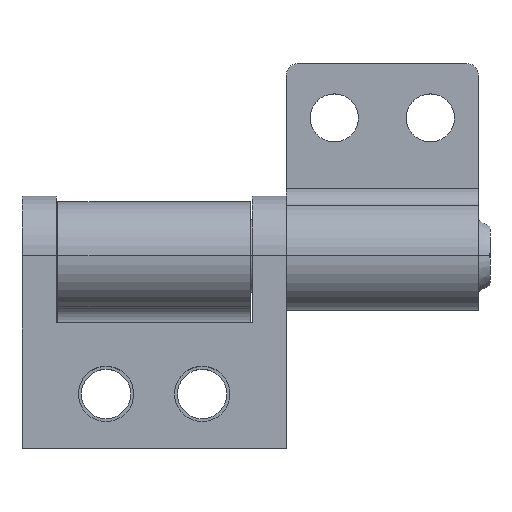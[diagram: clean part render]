
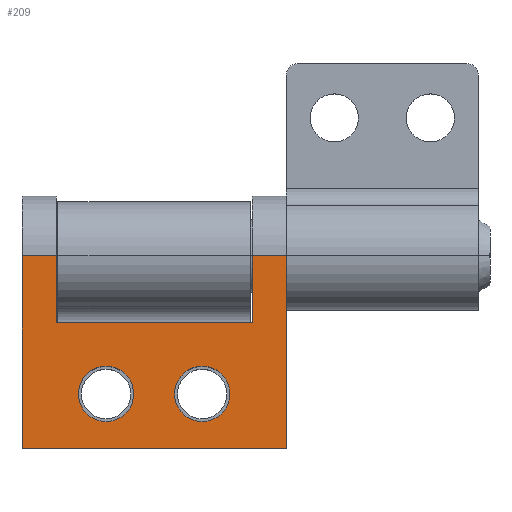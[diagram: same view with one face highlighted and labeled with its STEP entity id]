
A CAD part, top view. The second image highlights one B-rep face of the part: STEP entity #209.
In plain terms, the highlighted planar face has unit normal (0, 0, 1).
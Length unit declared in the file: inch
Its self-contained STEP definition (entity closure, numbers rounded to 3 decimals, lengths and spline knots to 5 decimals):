
#209=ADVANCED_FACE('',(#451,#452,#453),#454,.T.);
#451=FACE_BOUND('',#738,.T.);
#452=FACE_BOUND('',#739,.T.);
#453=FACE_OUTER_BOUND('',#740,.T.);
#454=PLANE('',#741);
#738=EDGE_LOOP('',(#1249,#1250));
#739=EDGE_LOOP('',(#1251,#1252));
#740=EDGE_LOOP('',(#1253,#1254,#1255,#1256,#1257,#1258,#1259,#1260));
#741=AXIS2_PLACEMENT_3D('',#1261,#1262,#1263);
#1249=ORIENTED_EDGE('',*,*,#1725,.T.);
#1250=ORIENTED_EDGE('',*,*,#1830,.T.);
#1251=ORIENTED_EDGE('',*,*,#1673,.T.);
#1252=ORIENTED_EDGE('',*,*,#1843,.T.);
#1253=ORIENTED_EDGE('',*,*,#1835,.T.);
#1254=ORIENTED_EDGE('',*,*,#1827,.F.);
#1255=ORIENTED_EDGE('',*,*,#1844,.T.);
#1256=ORIENTED_EDGE('',*,*,#1762,.T.);
#1257=ORIENTED_EDGE('',*,*,#1781,.T.);
#1258=ORIENTED_EDGE('',*,*,#1845,.F.);
#1259=ORIENTED_EDGE('',*,*,#1791,.T.);
#1260=ORIENTED_EDGE('',*,*,#1815,.T.);
#1261=CARTESIAN_POINT('',(-1.96507,-2.,0.156));
#1262=DIRECTION('',(0.,0.,1.0));
#1263=DIRECTION('',(0.,-1.0,0.));
#1673=EDGE_CURVE('',#2001,#1999,#2002,.T.);
#1725=EDGE_CURVE('',#2093,#2091,#2094,.T.);
#1762=EDGE_CURVE('',#2153,#2151,#2154,.T.);
#1781=EDGE_CURVE('',#2151,#2179,#2182,.T.);
#1791=EDGE_CURVE('',#2198,#2196,#2199,.T.);
#1815=EDGE_CURVE('',#2196,#2230,#2232,.T.);
#1827=EDGE_CURVE('',#2246,#2248,#2249,.T.);
#1830=EDGE_CURVE('',#2091,#2093,#2252,.T.);
#1835=EDGE_CURVE('',#2230,#2248,#2257,.T.);
#1843=EDGE_CURVE('',#1999,#2001,#2269,.T.);
#1844=EDGE_CURVE('',#2246,#2153,#2270,.T.);
#1845=EDGE_CURVE('',#2198,#2179,#2271,.T.);
#1999=VERTEX_POINT('',#2463);
#2001=VERTEX_POINT('',#2466);
#2002=CIRCLE('',#2467,0.072);
#2091=VERTEX_POINT('',#2577);
#2093=VERTEX_POINT('',#2580);
#2094=CIRCLE('',#2581,0.072);
#2151=VERTEX_POINT('',#2653);
#2153=VERTEX_POINT('',#2656);
#2154=LINE('',#2657,#2658);
#2179=VERTEX_POINT('',#2688);
#2182=LINE('',#2691,#2692);
#2196=VERTEX_POINT('',#2710);
#2198=VERTEX_POINT('',#2713);
#2199=LINE('',#2714,#2715);
#2230=VERTEX_POINT('',#2751);
#2232=LINE('',#2754,#2755);
#2246=VERTEX_POINT('',#2773);
#2248=VERTEX_POINT('',#2775);
#2249=LINE('',#2776,#2777);
#2252=CIRCLE('',#2780,0.072);
#2257=LINE('',#2787,#2788);
#2269=CIRCLE('',#2802,0.072);
#2270=LINE('',#2803,#2804);
#2271=LINE('',#2805,#2806);
#2463=CARTESIAN_POINT('',(-1.74657,-1.787,0.156));
#2466=CARTESIAN_POINT('',(-1.74657,-1.931,0.156));
#2467=AXIS2_PLACEMENT_3D('',#2976,#2977,#2978);
#2577=CARTESIAN_POINT('',(-1.49657,-1.787,0.156));
#2580=CARTESIAN_POINT('',(-1.49657,-1.931,0.156));
#2581=AXIS2_PLACEMENT_3D('',#3064,#3065,#3066);
#2653=CARTESIAN_POINT('',(-1.27807,-2.,0.156));
#2656=CARTESIAN_POINT('',(-1.96507,-2.,0.156));
#2657=CARTESIAN_POINT('',(-1.96507,-2.,0.156));
#2658=VECTOR('',#3122,0.3937);
#2688=CARTESIAN_POINT('',(-1.27807,-1.5,0.156));
#2691=CARTESIAN_POINT('',(-1.27807,-1.5,0.156));
#2692=VECTOR('',#3158,0.3937);
#2710=CARTESIAN_POINT('',(-1.36657,-1.67439,0.156));
#2713=CARTESIAN_POINT('',(-1.36657,-1.5,0.156));
#2714=CARTESIAN_POINT('',(-1.36657,-1.70301,0.156));
#2715=VECTOR('',#3173,0.3937);
#2751=CARTESIAN_POINT('',(-1.87657,-1.67439,0.156));
#2754=CARTESIAN_POINT('',(-1.66582,-1.67439,0.156));
#2755=VECTOR('',#3219,0.3937);
#2773=CARTESIAN_POINT('',(-1.96507,-1.5,0.156));
#2775=CARTESIAN_POINT('',(-1.87657,-1.5,0.156));
#2776=CARTESIAN_POINT('',(-1.96507,-1.5,0.156));
#2777=VECTOR('',#3233,0.3937);
#2780=AXIS2_PLACEMENT_3D('',#3237,#3238,#3239);
#2787=CARTESIAN_POINT('',(-1.87657,-1.70301,0.156));
#2788=VECTOR('',#3242,0.3937);
#2802=AXIS2_PLACEMENT_3D('',#3254,#3255,#3256);
#2803=CARTESIAN_POINT('',(-1.96507,-1.5,0.156));
#2804=VECTOR('',#3257,0.3937);
#2805=CARTESIAN_POINT('',(-1.96507,-1.5,0.156));
#2806=VECTOR('',#3258,0.3937);
#2976=CARTESIAN_POINT('',(-1.74657,-1.859,0.156));
#2977=DIRECTION('',(0.,0.,-1.0));
#2978=DIRECTION('',(0.,1.0,0.));
#3064=CARTESIAN_POINT('',(-1.49657,-1.859,0.156));
#3065=DIRECTION('',(0.,0.,-1.0));
#3066=DIRECTION('',(0.,1.0,0.));
#3122=DIRECTION('',(1.0,0.0,0.));
#3158=DIRECTION('',(0.,1.0,0.));
#3173=DIRECTION('',(0.,-1.0,0.));
#3219=DIRECTION('',(-1.0,0.,0.));
#3233=DIRECTION('',(1.0,0.0,0.));
#3237=CARTESIAN_POINT('',(-1.49657,-1.859,0.156));
#3238=DIRECTION('',(0.,0.,-1.0));
#3239=DIRECTION('',(0.,1.0,0.));
#3242=DIRECTION('',(0.,1.0,0.));
#3254=CARTESIAN_POINT('',(-1.74657,-1.859,0.156));
#3255=DIRECTION('',(0.,0.,-1.0));
#3256=DIRECTION('',(0.,1.0,0.));
#3257=DIRECTION('',(0.,-1.0,0.));
#3258=DIRECTION('',(1.0,0.0,0.));
